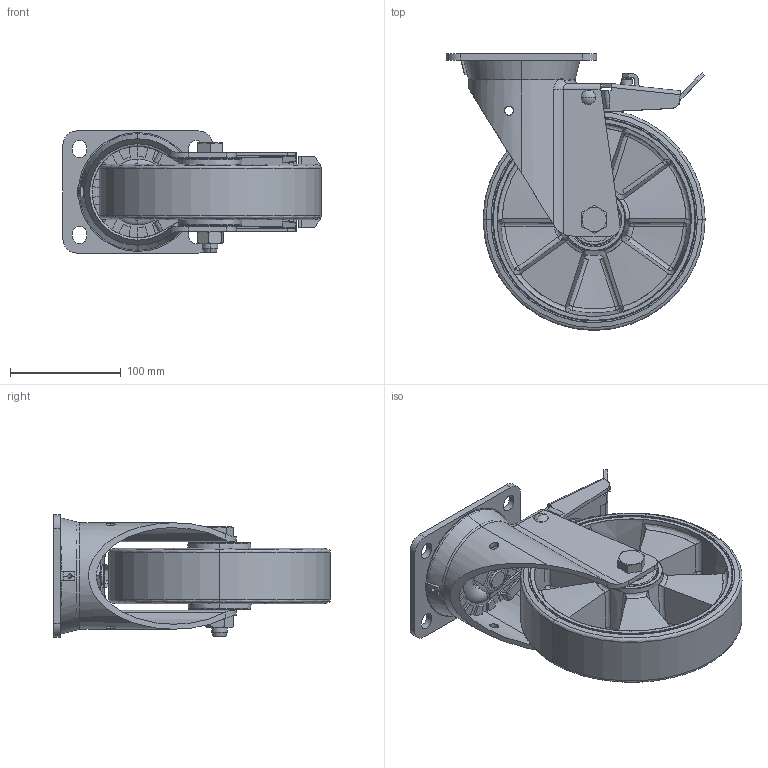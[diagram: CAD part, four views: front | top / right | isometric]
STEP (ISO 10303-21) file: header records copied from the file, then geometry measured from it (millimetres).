
FILE_DESCRIPTION (( 'STEP AP203' ), '1' );
FILE_NAME ('25871FR.STEP', '2009-06-17T06:25:34', ( 'Utente' ), ( 'User' ), 'SwSTEP 2.0', 'SolidWorks 2008', '' );
FILE_SCHEMA (( 'CONFIG_CONTROL_DESIGN' ));
Length unit declared in the file: millimetre
Products named in the file (1): 25871FR
Bounding box: 232.7 x 249.5 x 110 mm (x, y, z)
Surface area: 353802.8 mm2 (no closed solid volume)
Topology: 0 solids, 329 shells, 613 faces, 2703 edges, 2366 vertices
Faces by surface type: plane 228, bspline 140, cylinder 135, cone 90, torus 18, sphere 2
Entity records: 49729 total; most frequent: CARTESIAN_POINT 30612, ORIENTED_EDGE 3293, DIRECTION 3103, EDGE_CURVE 2685, VERTEX_POINT 2366, B_SPLINE_CURVE_WITH_KNOTS 1079, AXIS2_PLACEMENT_3D 1037, LINE 1029
